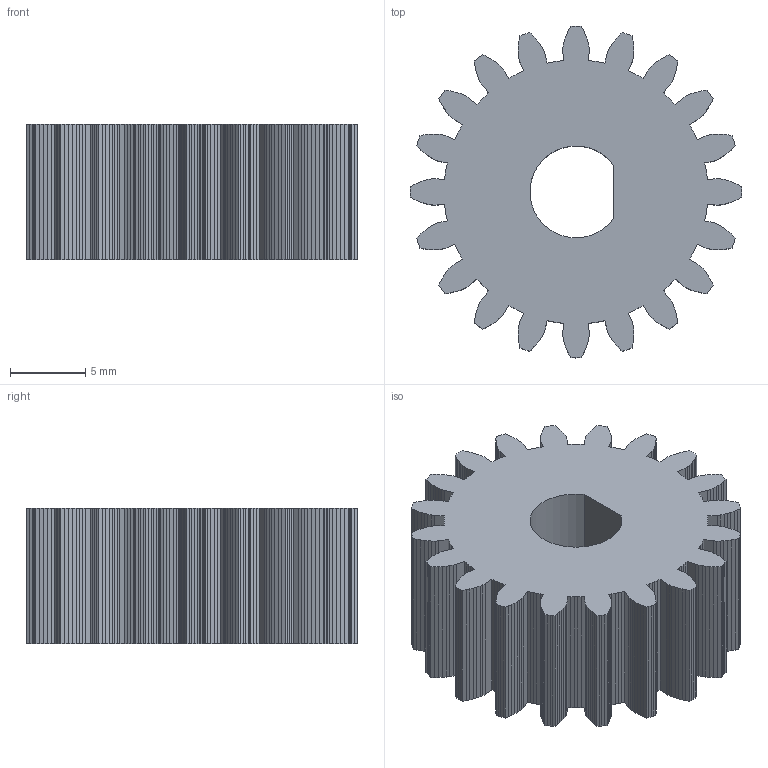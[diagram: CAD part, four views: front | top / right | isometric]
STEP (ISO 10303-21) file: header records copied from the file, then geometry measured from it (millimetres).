
FILE_DESCRIPTION(('Open CASCADE Model'),'2;1');
FILE_NAME('Open CASCADE Shape Model','2026-10-15T19:33:12',('Author'),( 'Open CASCADE'),'Open CASCADE STEP processor 7.9','Open CASCADE 7.9' ,'Unknown');
FILE_SCHEMA(('AUTOMOTIVE_DESIGN { 1 0 10303 214 1 1 1 1 }'));
Length unit declared in the file: millimetre
Products named in the file (1): Open CASCADE STEP translator 7.9 12
Bounding box: 22 x 22 x 9 mm (x, y, z)
Volume: 2506.3 mm3; surface area: 1911.9 mm2
Topology: 1 solids, 1 shells, 504 faces, 1506 edges, 1004 vertices
Faces by surface type: plane 503, cylinder 1
Entity records: 36190 total; most frequent: CARTESIAN_POINT 6039, DIRECTION 5528, LINE 4514, VECTOR 4514, ORIENTED_EDGE 3012, PCURVE 3012, DEFINITIONAL_REPRESENTATION 3012, EDGE_CURVE 1506
